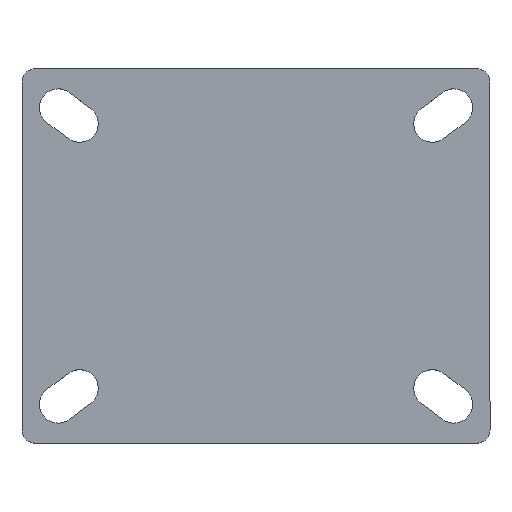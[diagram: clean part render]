
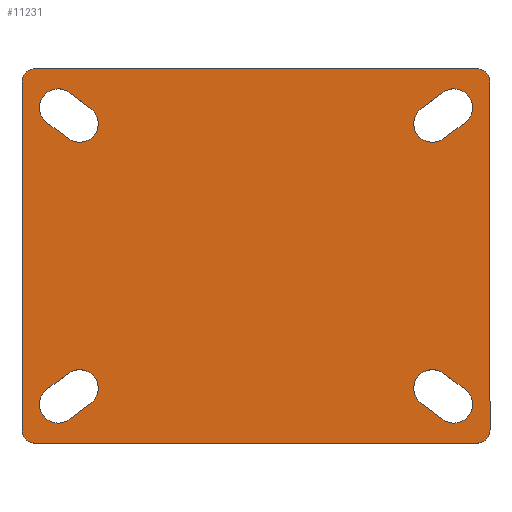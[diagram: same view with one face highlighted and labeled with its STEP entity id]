
A CAD part, top view. The second image highlights one B-rep face of the part: STEP entity #11231.
In plain terms, the highlighted planar face has unit normal (0, 0, 1).
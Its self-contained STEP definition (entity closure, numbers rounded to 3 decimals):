
#778=FACE_BOUND('',#2297,.T.);
#779=FACE_BOUND('',#2298,.T.);
#780=FACE_BOUND('',#2299,.T.);
#781=FACE_BOUND('',#2300,.T.);
#1051=PLANE('',#11842);
#1631=FACE_OUTER_BOUND('',#2296,.T.);
#2296=EDGE_LOOP('',(#10264,#10265,#10266,#10267,#10268,#10269,#10270,#10271));
#2297=EDGE_LOOP('',(#10272,#10273,#10274,#10275));
#2298=EDGE_LOOP('',(#10276,#10277,#10278,#10279));
#2299=EDGE_LOOP('',(#10280,#10281,#10282,#10283));
#2300=EDGE_LOOP('',(#10284,#10285,#10286,#10287));
#2546=CIRCLE('',#11808,7.);
#2547=CIRCLE('',#11811,7.);
#2548=CIRCLE('',#11814,7.);
#2549=CIRCLE('',#11817,7.);
#2550=CIRCLE('',#11820,7.);
#2551=CIRCLE('',#11823,7.);
#2552=CIRCLE('',#11826,7.);
#2553=CIRCLE('',#11829,7.);
#2554=CIRCLE('',#11831,5.);
#2555=CIRCLE('',#11834,5.);
#2556=CIRCLE('',#11837,5.);
#2557=CIRCLE('',#11840,5.);
#3494=LINE('',#19172,#4468);
#3497=LINE('',#19180,#4471);
#3500=LINE('',#19188,#4474);
#3503=LINE('',#19196,#4477);
#3506=LINE('',#19204,#4480);
#3509=LINE('',#19212,#4483);
#3512=LINE('',#19220,#4486);
#3515=LINE('',#19228,#4489);
#3519=LINE('',#19240,#4493);
#3522=LINE('',#19248,#4496);
#3525=LINE('',#19256,#4499);
#3528=LINE('',#19263,#4502);
#4468=VECTOR('',#13815,10.);
#4471=VECTOR('',#13824,10.);
#4474=VECTOR('',#13833,10.);
#4477=VECTOR('',#13842,10.);
#4480=VECTOR('',#13851,10.);
#4483=VECTOR('',#13860,10.);
#4486=VECTOR('',#13869,10.);
#4489=VECTOR('',#13878,10.);
#4493=VECTOR('',#13892,10.);
#4496=VECTOR('',#13901,10.);
#4499=VECTOR('',#13910,10.);
#4502=VECTOR('',#13919,10.);
#5561=VERTEX_POINT('',#19169);
#5562=VERTEX_POINT('',#19171);
#5563=VERTEX_POINT('',#19175);
#5564=VERTEX_POINT('',#19179);
#5565=VERTEX_POINT('',#19185);
#5566=VERTEX_POINT('',#19187);
#5567=VERTEX_POINT('',#19191);
#5568=VERTEX_POINT('',#19195);
#5569=VERTEX_POINT('',#19201);
#5570=VERTEX_POINT('',#19203);
#5571=VERTEX_POINT('',#19207);
#5572=VERTEX_POINT('',#19211);
#5573=VERTEX_POINT('',#19217);
#5574=VERTEX_POINT('',#19219);
#5575=VERTEX_POINT('',#19223);
#5576=VERTEX_POINT('',#19227);
#5577=VERTEX_POINT('',#19233);
#5578=VERTEX_POINT('',#19235);
#5579=VERTEX_POINT('',#19239);
#5580=VERTEX_POINT('',#19243);
#5581=VERTEX_POINT('',#19247);
#5582=VERTEX_POINT('',#19251);
#5583=VERTEX_POINT('',#19255);
#5584=VERTEX_POINT('',#19259);
#7132=EDGE_CURVE('',#5562,#5561,#3494,.T.);
#7134=EDGE_CURVE('',#5563,#5562,#2546,.T.);
#7136=EDGE_CURVE('',#5564,#5563,#3497,.T.);
#7138=EDGE_CURVE('',#5561,#5564,#2547,.T.);
#7140=EDGE_CURVE('',#5566,#5565,#3500,.T.);
#7142=EDGE_CURVE('',#5567,#5566,#2548,.T.);
#7144=EDGE_CURVE('',#5568,#5567,#3503,.T.);
#7146=EDGE_CURVE('',#5565,#5568,#2549,.T.);
#7148=EDGE_CURVE('',#5570,#5569,#3506,.T.);
#7150=EDGE_CURVE('',#5571,#5570,#2550,.T.);
#7152=EDGE_CURVE('',#5572,#5571,#3509,.T.);
#7154=EDGE_CURVE('',#5569,#5572,#2551,.T.);
#7156=EDGE_CURVE('',#5574,#5573,#3512,.T.);
#7158=EDGE_CURVE('',#5575,#5574,#2552,.T.);
#7160=EDGE_CURVE('',#5576,#5575,#3515,.T.);
#7162=EDGE_CURVE('',#5573,#5576,#2553,.T.);
#7164=EDGE_CURVE('',#5578,#5577,#2554,.T.);
#7166=EDGE_CURVE('',#5579,#5578,#3519,.T.);
#7168=EDGE_CURVE('',#5580,#5579,#2555,.T.);
#7170=EDGE_CURVE('',#5581,#5580,#3522,.T.);
#7172=EDGE_CURVE('',#5582,#5581,#2556,.T.);
#7174=EDGE_CURVE('',#5583,#5582,#3525,.T.);
#7176=EDGE_CURVE('',#5584,#5583,#2557,.T.);
#7178=EDGE_CURVE('',#5577,#5584,#3528,.T.);
#10264=ORIENTED_EDGE('',*,*,#7178,.T.);
#10265=ORIENTED_EDGE('',*,*,#7176,.T.);
#10266=ORIENTED_EDGE('',*,*,#7174,.T.);
#10267=ORIENTED_EDGE('',*,*,#7172,.T.);
#10268=ORIENTED_EDGE('',*,*,#7170,.T.);
#10269=ORIENTED_EDGE('',*,*,#7168,.T.);
#10270=ORIENTED_EDGE('',*,*,#7166,.T.);
#10271=ORIENTED_EDGE('',*,*,#7164,.T.);
#10272=ORIENTED_EDGE('',*,*,#7162,.T.);
#10273=ORIENTED_EDGE('',*,*,#7160,.T.);
#10274=ORIENTED_EDGE('',*,*,#7158,.T.);
#10275=ORIENTED_EDGE('',*,*,#7156,.T.);
#10276=ORIENTED_EDGE('',*,*,#7154,.T.);
#10277=ORIENTED_EDGE('',*,*,#7152,.T.);
#10278=ORIENTED_EDGE('',*,*,#7150,.T.);
#10279=ORIENTED_EDGE('',*,*,#7148,.T.);
#10280=ORIENTED_EDGE('',*,*,#7146,.T.);
#10281=ORIENTED_EDGE('',*,*,#7144,.T.);
#10282=ORIENTED_EDGE('',*,*,#7142,.T.);
#10283=ORIENTED_EDGE('',*,*,#7140,.T.);
#10284=ORIENTED_EDGE('',*,*,#7138,.T.);
#10285=ORIENTED_EDGE('',*,*,#7136,.T.);
#10286=ORIENTED_EDGE('',*,*,#7134,.T.);
#10287=ORIENTED_EDGE('',*,*,#7132,.T.);
#11231=ADVANCED_FACE('',(#1631,#778,#779,#780,#781),#1051,.T.);
#11808=AXIS2_PLACEMENT_3D('',#19176,#13819,#13820);
#11811=AXIS2_PLACEMENT_3D('',#19183,#13828,#13829);
#11814=AXIS2_PLACEMENT_3D('',#19192,#13837,#13838);
#11817=AXIS2_PLACEMENT_3D('',#19199,#13846,#13847);
#11820=AXIS2_PLACEMENT_3D('',#19208,#13855,#13856);
#11823=AXIS2_PLACEMENT_3D('',#19215,#13864,#13865);
#11826=AXIS2_PLACEMENT_3D('',#19224,#13873,#13874);
#11829=AXIS2_PLACEMENT_3D('',#19231,#13882,#13883);
#11831=AXIS2_PLACEMENT_3D('',#19236,#13887,#13888);
#11834=AXIS2_PLACEMENT_3D('',#19244,#13896,#13897);
#11837=AXIS2_PLACEMENT_3D('',#19252,#13905,#13906);
#11840=AXIS2_PLACEMENT_3D('',#19260,#13914,#13915);
#11842=AXIS2_PLACEMENT_3D('',#19264,#13920,#13921);
#13815=DIRECTION('',(0.8,-0.6,0.));
#13819=DIRECTION('center_axis',(0.,0.,
-1.));
#13820=DIRECTION('ref_axis',(-0.6,-0.8,0.));
#13824=DIRECTION('',(-0.8,0.6,0.));
#13828=DIRECTION('center_axis',(0.,0.,
-1.));
#13829=DIRECTION('ref_axis',(0.6,0.8,0.));
#13833=DIRECTION('',(-0.8,-0.6,0.));
#13837=DIRECTION('center_axis',(0.,0.,
-1.));
#13838=DIRECTION('ref_axis',(-0.6,0.8,0.));
#13842=DIRECTION('',(0.8,0.6,0.));
#13846=DIRECTION('center_axis',(0.,0.,
-1.));
#13847=DIRECTION('ref_axis',(0.6,-0.8,0.));
#13851=DIRECTION('',(-0.8,0.6,0.));
#13855=DIRECTION('center_axis',(0.,0.,
-1.));
#13856=DIRECTION('ref_axis',(0.6,0.8,0.));
#13860=DIRECTION('',(0.8,-0.6,0.));
#13864=DIRECTION('center_axis',(0.,0.,
-1.));
#13865=DIRECTION('ref_axis',(-0.6,-0.8,0.));
#13869=DIRECTION('',(-0.8,-0.6,0.));
#13873=DIRECTION('center_axis',(0.,0.,
-1.));
#13874=DIRECTION('ref_axis',(-0.6,0.8,0.));
#13878=DIRECTION('',(0.8,0.6,0.));
#13882=DIRECTION('center_axis',(0.,0.,
-1.));
#13883=DIRECTION('ref_axis',(0.6,-0.8,0.));
#13887=DIRECTION('center_axis',(0.,0.,
1.));
#13888=DIRECTION('ref_axis',(-1.,0.,0.));
#13892=DIRECTION('',(0.,-1.,0.));
#13896=DIRECTION('center_axis',(0.,0.,
1.));
#13897=DIRECTION('ref_axis',(0.,1.,0.));
#13901=DIRECTION('',(-1.,0.,0.));
#13905=DIRECTION('center_axis',(0.,0.,
1.));
#13906=DIRECTION('ref_axis',(1.,0.,0.));
#13910=DIRECTION('',(0.,1.,0.));
#13914=DIRECTION('center_axis',(0.,0.,
1.));
#13915=DIRECTION('ref_axis',(0.,-1.,0.));
#13919=DIRECTION('',(1.,0.,0.));
#13920=DIRECTION('center_axis',(0.,0.,
1.));
#13921=DIRECTION('ref_axis',(1.,0.,0.));
#19169=CARTESIAN_POINT('',(78.2,-49.9,10.));
#19171=CARTESIAN_POINT('',(70.2,-43.9,10.));
#19172=CARTESIAN_POINT('',(70.2,-43.9,10.));
#19175=CARTESIAN_POINT('',(61.8,-55.1,10.));
#19176=CARTESIAN_POINT('Origin',(66.,-49.5,10.));
#19179=CARTESIAN_POINT('',(69.8,-61.1,10.));
#19180=CARTESIAN_POINT('',(69.8,-61.1,10.));
#19183=CARTESIAN_POINT('Origin',(74.,-55.5,10.));
#19185=CARTESIAN_POINT('',(70.2,43.9,10.));
#19187=CARTESIAN_POINT('',(78.2,49.9,10.));
#19188=CARTESIAN_POINT('',(78.2,49.9,10.));
#19191=CARTESIAN_POINT('',(69.8,61.1,10.));
#19192=CARTESIAN_POINT('Origin',(74.,55.5,10.));
#19195=CARTESIAN_POINT('',(61.8,55.1,10.));
#19196=CARTESIAN_POINT('',(61.8,55.1,10.));
#19199=CARTESIAN_POINT('Origin',(66.,49.5,10.));
#19201=CARTESIAN_POINT('',(-78.2,49.9,10.));
#19203=CARTESIAN_POINT('',(-70.2,43.9,10.));
#19204=CARTESIAN_POINT('',(-70.2,43.9,10.));
#19207=CARTESIAN_POINT('',(-61.8,55.1,10.));
#19208=CARTESIAN_POINT('Origin',(-66.,49.5,10.));
#19211=CARTESIAN_POINT('',(-69.8,61.1,10.));
#19212=CARTESIAN_POINT('',(-69.8,61.1,10.));
#19215=CARTESIAN_POINT('Origin',(-74.,55.5,10.));
#19217=CARTESIAN_POINT('',(-69.8,-61.1,10.));
#19219=CARTESIAN_POINT('',(-61.8,-55.1,10.));
#19220=CARTESIAN_POINT('',(-61.8,-55.1,10.));
#19223=CARTESIAN_POINT('',(-70.2,-43.9,10.));
#19224=CARTESIAN_POINT('Origin',(-66.,-49.5,10.));
#19227=CARTESIAN_POINT('',(-78.2,-49.9,10.));
#19228=CARTESIAN_POINT('',(-78.2,-49.9,10.));
#19231=CARTESIAN_POINT('Origin',(-74.,-55.5,10.));
#19233=CARTESIAN_POINT('',(-82.5,-70.,10.));
#19235=CARTESIAN_POINT('',(-87.5,-65.,10.));
#19236=CARTESIAN_POINT('Origin',(-82.5,-65.,10.));
#19239=CARTESIAN_POINT('',(-87.5,65.,10.));
#19240=CARTESIAN_POINT('',(-87.5,65.,10.));
#19243=CARTESIAN_POINT('',(-82.5,70.,10.));
#19244=CARTESIAN_POINT('Origin',(-82.5,65.,10.));
#19247=CARTESIAN_POINT('',(82.5,70.,10.));
#19248=CARTESIAN_POINT('',(82.5,70.,10.));
#19251=CARTESIAN_POINT('',(87.5,65.,10.));
#19252=CARTESIAN_POINT('Origin',(82.5,65.,10.));
#19255=CARTESIAN_POINT('',(87.5,-65.,10.));
#19256=CARTESIAN_POINT('',(87.5,-65.,10.));
#19259=CARTESIAN_POINT('',(82.5,-70.,10.));
#19260=CARTESIAN_POINT('Origin',(82.5,-65.,10.));
#19263=CARTESIAN_POINT('',(-82.5,-70.,10.));
#19264=CARTESIAN_POINT('Origin',(0.,0.,
10.));
